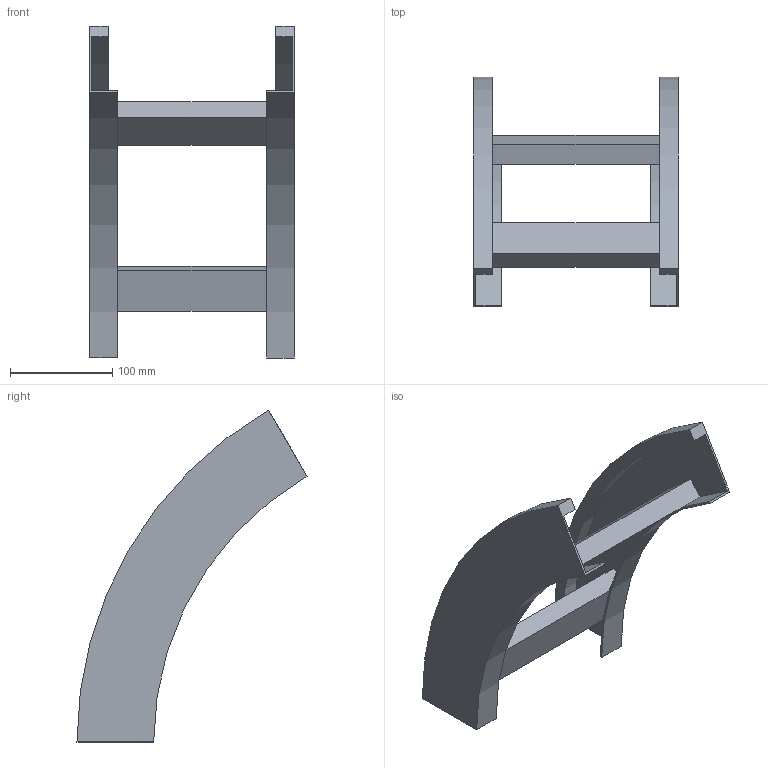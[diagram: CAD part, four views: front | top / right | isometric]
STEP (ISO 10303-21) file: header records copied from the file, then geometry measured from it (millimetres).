
FILE_DESCRIPTION (( 'STEP AP214' ), '1' );
FILE_NAME ('B2_41B3C200.step', '2025-02-21T15:00:27', ( '' ), ( '' ), 'SwSTEP 2.0', 'SolidWorks 2023', '' );
FILE_SCHEMA (( 'AUTOMOTIVE_DESIGN' ));
Length unit declared in the file: millimetre
Products named in the file (3): B2_41B3C200; B2_LONGH.DISCESA_60°_H75_R300; TRAVERSINO_200
Assembly tree (4 placements, depth 2):
  B2_41B3C200
    B2_LONGH.DISCESA_60°_H75_R300  x2
    TRAVERSINO_200  x2
Bounding box: 200 x 225 x 324.76 mm (x, y, z)
Volume: 603453.1 mm3; surface area: 217347.4 mm2
Topology: 4 solids, 4 shells, 32 faces, 72 edges, 48 vertices
Faces by surface type: plane 24, cylinder 8
Entity records: 552 total; most frequent: DIRECTION 90, CARTESIAN_POINT 83, ORIENTED_EDGE 72, EDGE_CURVE 36, AXIS2_PLACEMENT_3D 31, LINE 28, VECTOR 28, VERTEX_POINT 24
